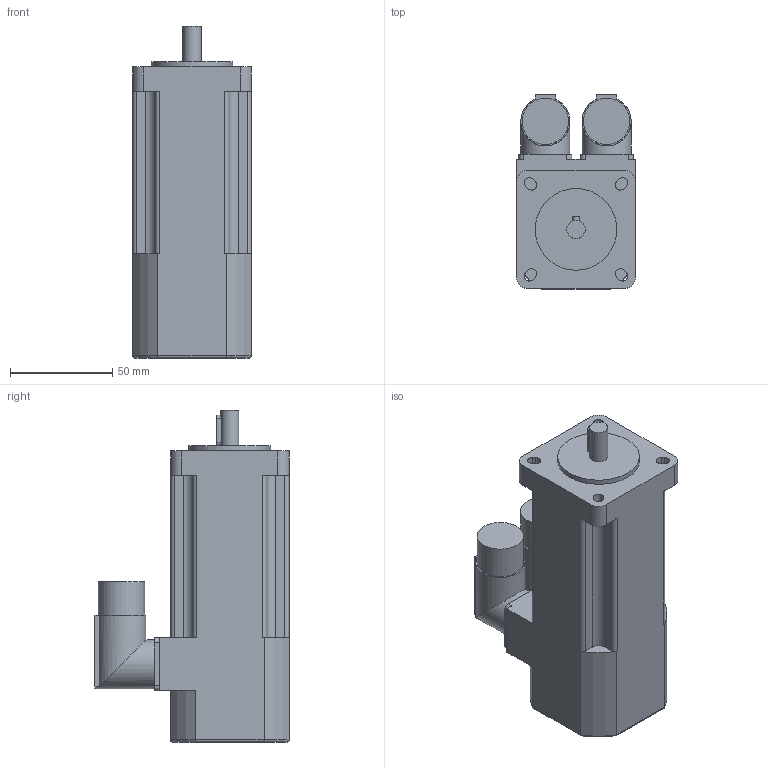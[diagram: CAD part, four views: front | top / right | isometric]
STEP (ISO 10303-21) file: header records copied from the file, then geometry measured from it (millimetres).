
FILE_DESCRIPTION(/* description */ (''),/* implementation_level */ '2;1');
FILE_NAME(/* name */ '\\Lafnas01\disegni\Archivi Lafert\3D\CAD 3D\MODELLI\Assiemi clienti\Serad\Modelli 3D Serad\B28Q\Encoder\Without Brake\B2801Qxx6ARx2033.ipt.stp',/* time_stamp */ '2015-09-07T10:48:24+02:00',/* author */ ('Pastrello Ylenia'),/* organization */ (''),/* preprocessor_version */ 'ST-DEVELOPER v15.6',/* originating_system */ 'Autodesk Inventor 2015',/* authorisation */ '');
FILE_SCHEMA (('AUTOMOTIVE_DESIGN { 1 0 10303 214 3 1 1 }'));
Length unit declared in the file: millimetre
Products named in the file (1): B2801Qxx6ARx2033
Bounding box: 58 x 95 x 162.5 mm (x, y, z)
Volume: 496326.2 mm3; surface area: 50136.3 mm2
Topology: 1 solids, 1 shells, 135 faces, 364 edges, 237 vertices
Faces by surface type: plane 71, cylinder 60, torus 4
Full cylindrical faces by diameter (mm): 9 x1, 22.7 x2, 24 x2, 40 x1
Entity records: 4341 total; most frequent: CARTESIAN_POINT 864, DIRECTION 737, ORIENTED_EDGE 712, EDGE_CURVE 355, AXIS2_PLACEMENT_3D 258, VERTEX_POINT 235, LINE 221, VECTOR 221
